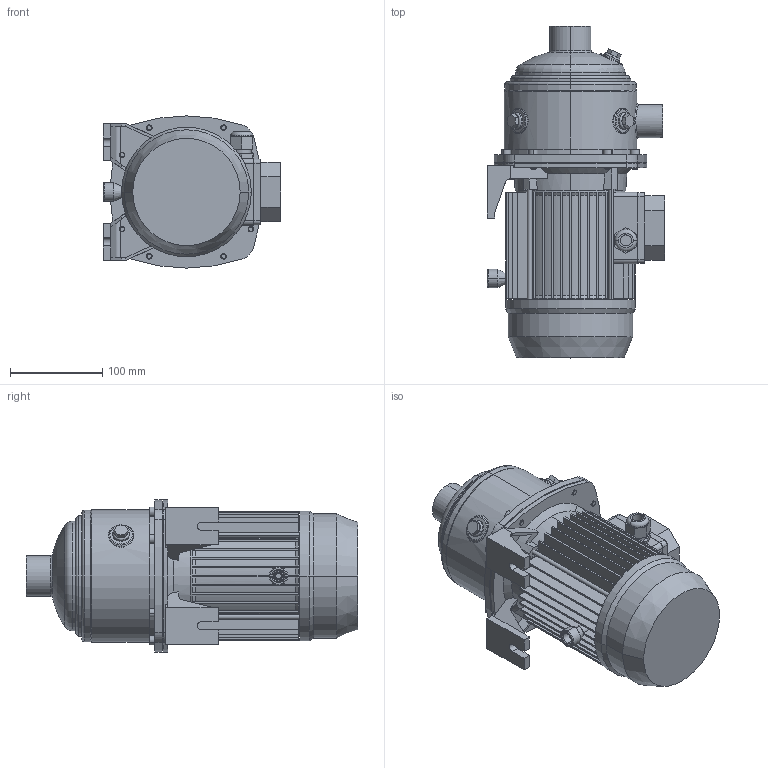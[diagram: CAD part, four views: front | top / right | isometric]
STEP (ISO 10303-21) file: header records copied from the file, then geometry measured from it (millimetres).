
FILE_DESCRIPTION((''),'2;1');
FILE_NAME('MATRIX_5-3T_0_65_IE3_ASM','2021-08-20T',('rosa'),('"Ebara Pumps Europe +39.444.706811"'),'PRO/ENGINEER BY PARAMETRIC TECHNOLOGY CORPORATION, 2017170','PRO/ENGINEER BY PARAMETRIC TECHNOLOGY CORPORATION, 2017170','');
FILE_SCHEMA(('AUTOMOTIVE_DESIGN { 1 0 10303 214 1 1 1 1 }'));
Length unit declared in the file: millimetre
Products named in the file (5): CORPO_POMPA_MATRIX_5-2_3; SUPPORTO_MATRIX_MEC_71; MEC_71; 72228; MATRIX_5-3T_0_65_IE3_ASM
Assembly tree (4 placements, depth 2):
  MATRIX_5-3T_0_65_IE3_ASM
    CORPO_POMPA_MATRIX_5-2_3
    SUPPORTO_MATRIX_MEC_71
    MEC_71
    72228
Bounding box: 192 x 359.8 x 165 mm (x, y, z)
Volume: 3603942.1 mm3; surface area: 461976.7 mm2
Topology: 4 solids, 4 shells, 724 faces, 1741 edges, 1073 vertices
Faces by surface type: plane 375, cylinder 186, cone 110, torus 37, bspline 14, sphere 2
Entity records: 28323 total; most frequent: CARTESIAN_POINT 5475, DIRECTION 3672, ORIENTED_EDGE 3482, EDGE_CURVE 1741, PRESENTATION_STYLE_ASSIGNMENT 1694, STYLED_ITEM 1694, CURVE_STYLE 1691, AXIS2_PLACEMENT_3D 1411
